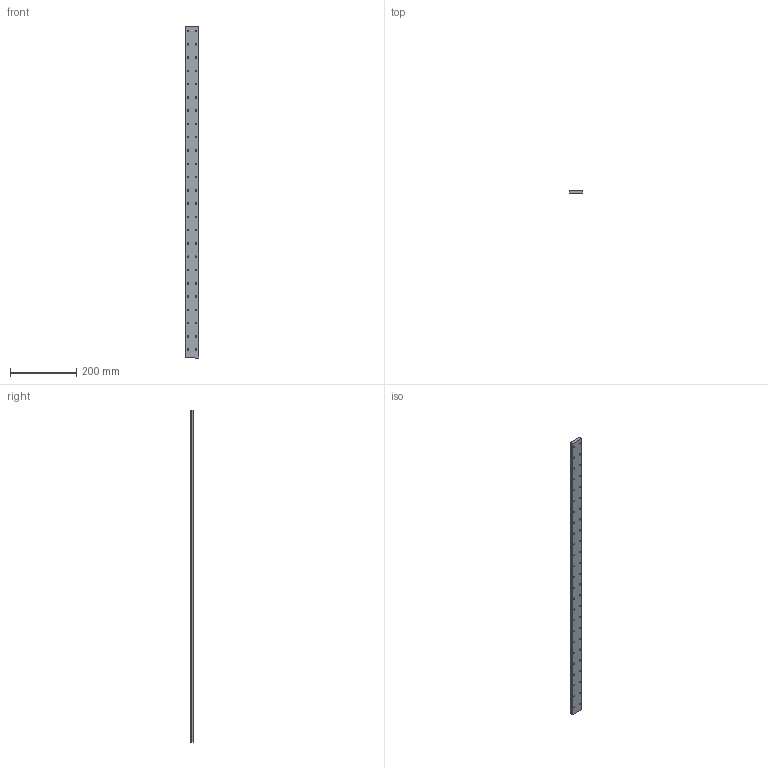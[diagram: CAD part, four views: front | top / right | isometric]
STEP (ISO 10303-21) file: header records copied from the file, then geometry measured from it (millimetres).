
FILE_DESCRIPTION (( 'STEP AP214' ), '1' );
FILE_NAME ('7.0030 Lineaarijohde MTW15 1000 mm.STEP', '2026-03-09T12:46:48', ( '' ), ( '' ), 'SwSTEP 2.0', 'SolidWorks 2025', '' );
FILE_SCHEMA (( 'AUTOMOTIVE_DESIGN' ));
Length unit declared in the file: millimetre
Products named in the file (1): 7.0030 Lineaarijohde MTW15 1000 mm
Bounding box: 42 x 9.5 x 1000 mm (x, y, z)
Volume: 376325.6 mm3; surface area: 113869.5 mm2
Topology: 1 solids, 1 shells, 265 faces, 639 edges, 426 vertices
Faces by surface type: cylinder 203, plane 62
Entity records: 8182 total; most frequent: DIRECTION 1577, CARTESIAN_POINT 1331, ORIENTED_EDGE 1278, AXIS2_PLACEMENT_3D 672, EDGE_CURVE 639, VERTEX_POINT 426, EDGE_LOOP 415, CIRCLE 406
